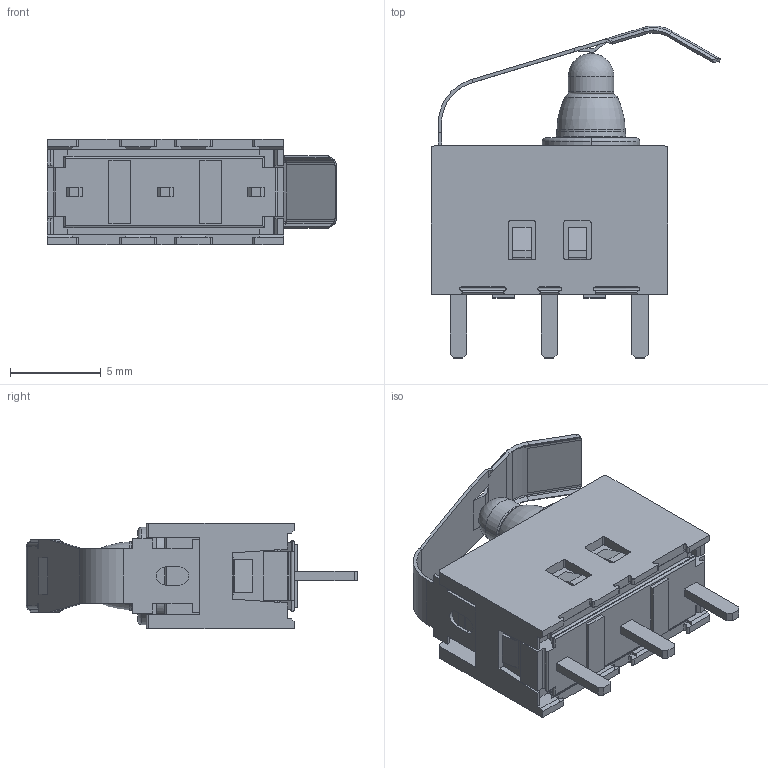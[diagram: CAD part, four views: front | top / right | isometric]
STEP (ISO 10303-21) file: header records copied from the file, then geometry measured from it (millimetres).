
FILE_DESCRIPTION (( 'STEP AP214' ), '1' );
FILE_NAME ('SPVQ370400.STEP', '2011-03-22T00:21:27', ( '' ), ( '' ), 'SwSTEP 2.0', 'SolidWorks 2007', '' );
FILE_SCHEMA (( 'AUTOMOTIVE_DESIGN' ));
Length unit declared in the file: millimetre
Products named in the file (1): SPVQ370400
Bounding box: 15.91 x 18.26 x 5.8 mm (x, y, z)
Volume: 622.5 mm3; surface area: 1187.7 mm2
Topology: 1 solids, 1 shells, 465 faces, 1312 edges, 844 vertices
Faces by surface type: plane 304, cylinder 122, torus 18, cone 13, bspline 6, sphere 2
Entity records: 20184 total; most frequent: CARTESIAN_POINT 2847, ORIENTED_EDGE 2616, DIRECTION 2485, EDGE_CURVE 1308, VECTOR 993, LINE 993, VERTEX_POINT 842, AXIS2_PLACEMENT_3D 746
